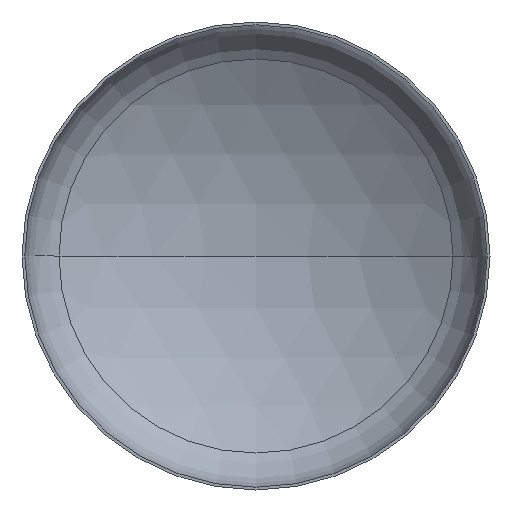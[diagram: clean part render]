
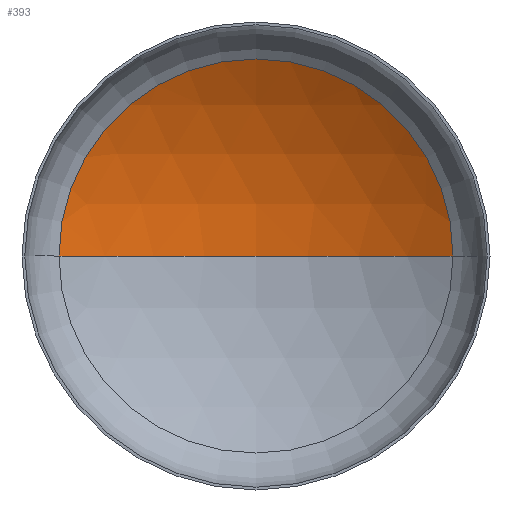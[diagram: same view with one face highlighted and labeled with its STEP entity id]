
A CAD part, front view. The second image highlights one B-rep face of the part: STEP entity #393.
In plain terms, the highlighted spherical face has radius 4000 mm.
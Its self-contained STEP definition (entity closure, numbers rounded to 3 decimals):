
#2 = DIRECTION ( 'NONE',  ( -1., 0., 0. ) ) ;
#9 = EDGE_LOOP ( 'NONE', ( #118, #31, #389 ) ) ;
#11 = DIRECTION ( 'NONE',  ( 1., 0., 0. ) ) ;
#15 = DIRECTION ( 'NONE',  ( 0., 0., 1. ) ) ;
#19 = AXIS2_PLACEMENT_3D ( 'NONE', #26, #15, #11 ) ;
#23 = AXIS2_PLACEMENT_3D ( 'NONE', #322, #134, #2 ) ;
#24 = AXIS2_PLACEMENT_3D ( 'NONE', #214, #178, #195 ) ;
#26 = CARTESIAN_POINT ( 'NONE',  ( 0., -2656.434, 0. ) ) ;
#31 = ORIENTED_EDGE ( 'NONE', *, *, #72, .T. ) ;
#71 = EDGE_CURVE ( 'NONE', #165, #76, #299, .T. ) ;
#72 = EDGE_CURVE ( 'NONE', #148, #165, #366, .T. ) ;
#73 = EDGE_CURVE ( 'NONE', #148, #76, #123, .T. ) ;
#76 = VERTEX_POINT ( 'NONE', #218 ) ;
#97 = DIRECTION ( 'NONE',  ( 0., 0., -1. ) ) ;
#118 = ORIENTED_EDGE ( 'NONE', *, *, #73, .F. ) ;
#123 = CIRCLE ( 'NONE', #19, 4000. ) ;
#134 = DIRECTION ( 'NONE',  ( 0., 0., -1. ) ) ;
#148 = VERTEX_POINT ( 'NONE', #227 ) ;
#165 = VERTEX_POINT ( 'NONE', #318 ) ;
#178 = DIRECTION ( 'NONE',  ( 0., -1., 0. ) ) ;
#185 = CARTESIAN_POINT ( 'NONE',  ( 0., -2656.434, 0. ) ) ;
#195 = DIRECTION ( 'NONE',  ( 1., 0., 0. ) ) ;
#214 = CARTESIAN_POINT ( 'NONE',  ( 0., 744.723, 0. ) ) ;
#218 = CARTESIAN_POINT ( 'NONE',  ( -2105.263, 744.723, 0. ) ) ;
#222 = DIRECTION ( 'NONE',  ( -1., 0., 0. ) ) ;
#227 = CARTESIAN_POINT ( 'NONE',  ( 0., 1343.566, 0. ) ) ;
#238 = AXIS2_PLACEMENT_3D ( 'NONE', #185, #97, #222 ) ;
#299 = CIRCLE ( 'NONE', #24, 2105.263 ) ;
#305 = SPHERICAL_SURFACE ( 'NONE', #238, 4000. ) ;
#318 = CARTESIAN_POINT ( 'NONE',  ( 2105.263, 744.723, 0. ) ) ;
#322 = CARTESIAN_POINT ( 'NONE',  ( 0., -2656.434, 0. ) ) ;
#366 = CIRCLE ( 'NONE', #23, 4000. ) ;
#378 = FACE_OUTER_BOUND ( 'NONE', #9, .T. ) ;
#389 = ORIENTED_EDGE ( 'NONE', *, *, #71, .T. ) ;
#393 = ADVANCED_FACE ( 'NONE', ( #378 ), #305, .F. ) ;
